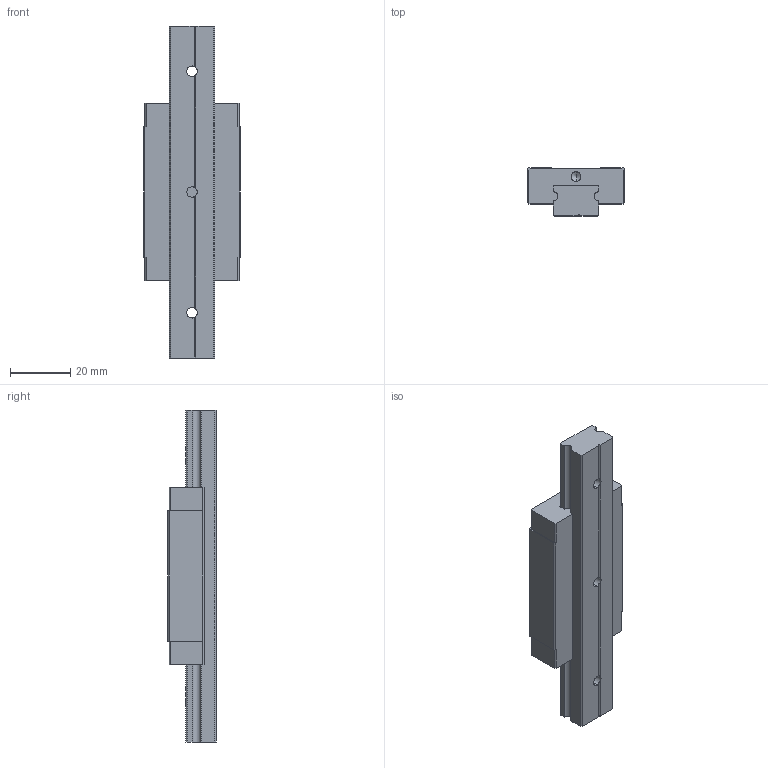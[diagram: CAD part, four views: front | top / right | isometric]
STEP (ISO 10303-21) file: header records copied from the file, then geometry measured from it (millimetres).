
FILE_DESCRIPTION (( 'STEP AP214' ), '1' );
FILE_NAME ('7.1060 Lineaarikelkka MTN15H.STEP', '2026-03-13T11:57:32', ( '' ), ( '' ), 'SwSTEP 2.0', 'SolidWorks 2025', '' );
FILE_SCHEMA (( 'AUTOMOTIVE_DESIGN' ));
Length unit declared in the file: millimetre
Products named in the file (1): 7.1060 Lineaarikelkka MTN15H
Bounding box: 32 x 16 x 110 mm (x, y, z)
Volume: 32184.5 mm3; surface area: 13324.4 mm2
Topology: 2 solids, 2 shells, 212 faces, 580 edges, 378 vertices
Faces by surface type: plane 141, cylinder 36, bspline 23, cone 12
Entity records: 10592 total; most frequent: CARTESIAN_POINT 2996, ORIENTED_EDGE 1136, DIRECTION 972, EDGE_CURVE 568, VECTOR 440, LINE 440, VERTEX_POINT 378, AXIS2_PLACEMENT_3D 266
